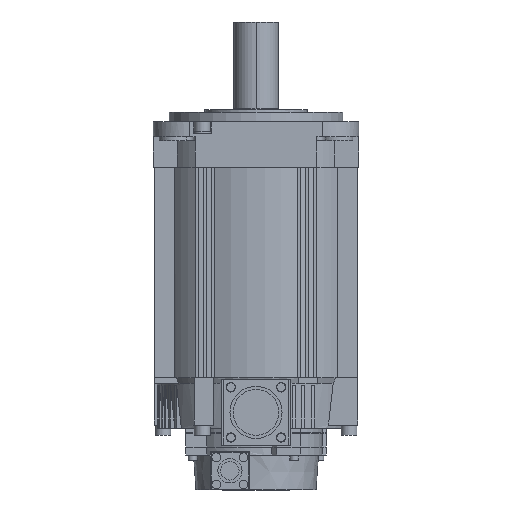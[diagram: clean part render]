
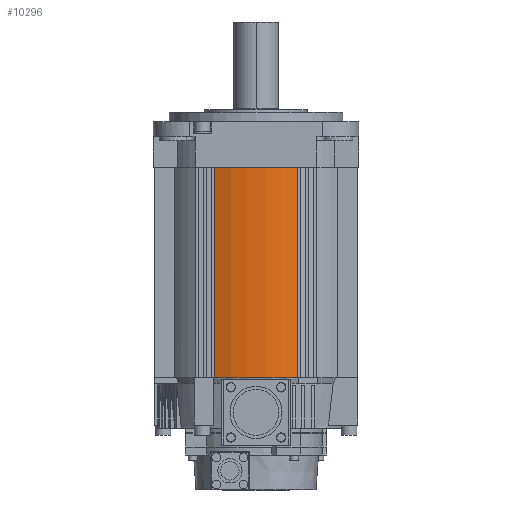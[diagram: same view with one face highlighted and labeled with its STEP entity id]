
A CAD part, front view. The second image highlights one B-rep face of the part: STEP entity #10296.
In plain terms, the highlighted cylindrical face has radius 64 mm (diameter 128 mm), a partial arc.
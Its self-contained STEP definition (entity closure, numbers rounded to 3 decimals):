
#9138 = ORIENTED_EDGE ( 'NONE', *, *, #20869, .F. ) ;
#9406 = VERTEX_POINT ( 'NONE', #20049 ) ;
#9496 = VERTEX_POINT ( 'NONE', #20048 ) ;
#10026 = ORIENTED_EDGE ( 'NONE', *, *, #10043, .F. ) ;
#10038 = ORIENTED_EDGE ( 'NONE', *, *, #21675, .F. ) ;
#10043 = EDGE_CURVE ( 'NONE', #9496, #21693, #20102, .T. ) ;
#10296 = ADVANCED_FACE ( 'NONE', ( #20098 ), #20096, .T. ) ;
#10305 = ORIENTED_EDGE ( 'NONE', *, *, #10318, .F. ) ;
#10318 = EDGE_CURVE ( 'NONE', #21664, #9406, #20087, .T. ) ;
#10333 = EDGE_LOOP ( 'NONE', ( #10305, #10038, #10026, #9138 ) ) ;
#13776 = CARTESIAN_POINT ( 'NONE',  ( -26.3, -58.346, -162. ) ) ;
#13865 = DIRECTION ( 'NONE',  ( 1., 0., 0. ) ) ;
#13868 = DIRECTION ( 'NONE',  ( 0., 0., -1. ) ) ;
#13870 = CARTESIAN_POINT ( 'NONE',  ( 0., 0., -162. ) ) ;
#13872 = AXIS2_PLACEMENT_3D ( 'NONE', #13870, #13868, #13865 ) ;
#13874 = CIRCLE ( 'NONE', #13872, 64. ) ;
#13931 = CARTESIAN_POINT ( 'NONE',  ( 26.3, -58.346, -162. ) ) ;
#20048 = CARTESIAN_POINT ( 'NONE',  ( 26.3, -58.346, -29. ) ) ;
#20049 = CARTESIAN_POINT ( 'NONE',  ( -26.3, -58.346, -29. ) ) ;
#20084 = DIRECTION ( 'NONE',  ( 0., 0., 1. ) ) ;
#20085 = VECTOR ( 'NONE', #20084, 1000. ) ;
#20086 = CARTESIAN_POINT ( 'NONE',  ( -26.3, -58.346, -343.019 ) ) ;
#20087 = LINE ( 'NONE', #20086, #20085 ) ;
#20092 = DIRECTION ( 'NONE',  ( 1., 0., 0. ) ) ;
#20093 = DIRECTION ( 'NONE',  ( 0., 0., 1. ) ) ;
#20094 = CARTESIAN_POINT ( 'NONE',  ( 0., 0., -343.019 ) ) ;
#20095 = AXIS2_PLACEMENT_3D ( 'NONE', #20094, #20093, #20092 ) ;
#20096 = CYLINDRICAL_SURFACE ( 'NONE', #20095, 64. ) ;
#20098 = FACE_OUTER_BOUND ( 'NONE', #10333, .T. ) ;
#20099 = DIRECTION ( 'NONE',  ( 0., 0., -1. ) ) ;
#20100 = VECTOR ( 'NONE', #20099, 1000. ) ;
#20101 = CARTESIAN_POINT ( 'NONE',  ( 26.3, -58.346, -343.019 ) ) ;
#20102 = LINE ( 'NONE', #20101, #20100 ) ;
#20330 = DIRECTION ( 'NONE',  ( 1., 0., 0. ) ) ;
#20331 = DIRECTION ( 'NONE',  ( 0., 0., 1. ) ) ;
#20332 = CARTESIAN_POINT ( 'NONE',  ( 0., 0., -29. ) ) ;
#20333 = AXIS2_PLACEMENT_3D ( 'NONE', #20332, #20331, #20330 ) ;
#20335 = CIRCLE ( 'NONE', #20333, 64. ) ;
#20869 = EDGE_CURVE ( 'NONE', #9406, #9496, #20335, .T. ) ;
#21664 = VERTEX_POINT ( 'NONE', #13776 ) ;
#21675 = EDGE_CURVE ( 'NONE', #21693, #21664, #13874, .T. ) ;
#21693 = VERTEX_POINT ( 'NONE', #13931 ) ;
